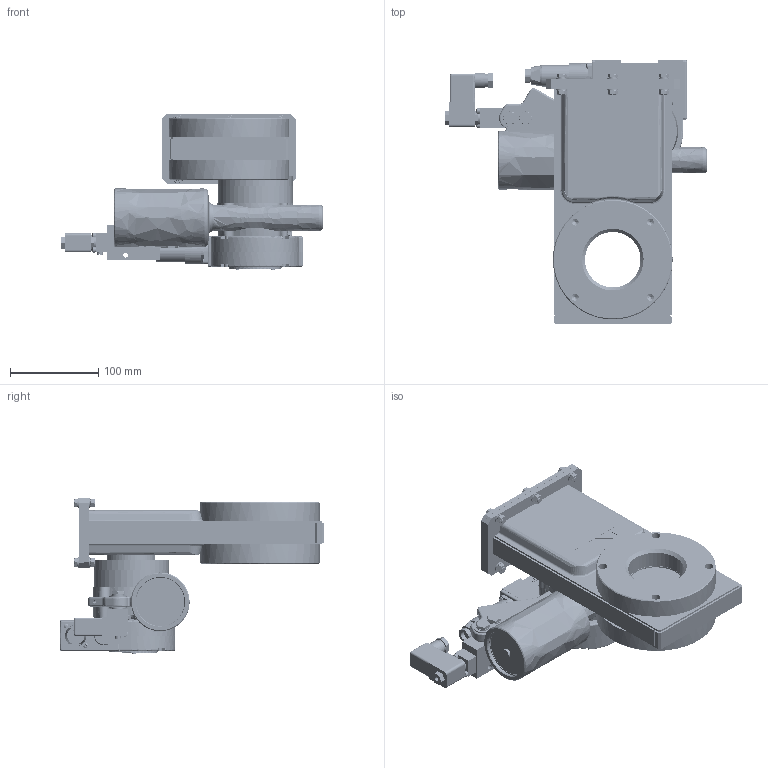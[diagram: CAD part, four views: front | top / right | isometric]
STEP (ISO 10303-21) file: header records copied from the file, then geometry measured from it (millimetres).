
FILE_DESCRIPTION((''),'2;1');
FILE_NAME('O:\MT\MT\Systeme\Cad\Datenexporte\www_vat_ch\236394.stp','2005-07-27T07:22:55',('User'),('SDRC'),'I-DEAS Master Series 9','UNIX','Yes');
FILE_SCHEMA(('CONFIG_CONTROL_DESIGN'));
Length unit declared in the file: millimetre
Assembly tree (72 placements, depth 0):
Bounding box: 298.2 x 300.13 x 178.15 mm (x, y, z)
Volume: 1653315.4 mm3; surface area: 633225.2 mm2
Topology: 97 solids, 97 shells, 2600 faces, 5921 edges, 3828 vertices
Faces by surface type: bspline 2600
Entity records: 65757 total; most frequent: CARTESIAN_POINT 34065, ORIENTED_EDGE 8506, EDGE_CURVE 4253, VERTEX_POINT 2722, EDGE_LOOP 2191, FACE_OUTER_BOUND 1828, ADVANCED_FACE 1828, QUASI_UNIFORM_CURVE 1374
